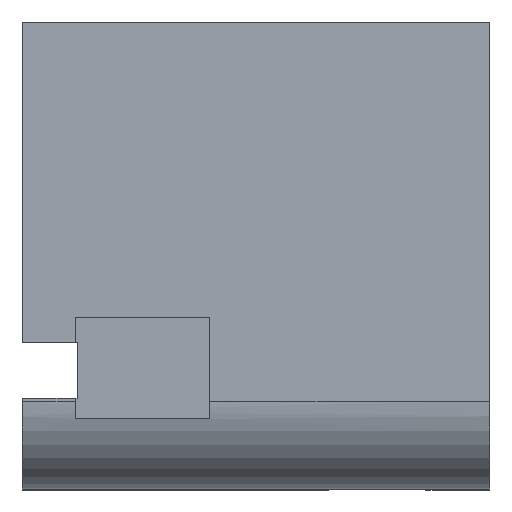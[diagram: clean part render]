
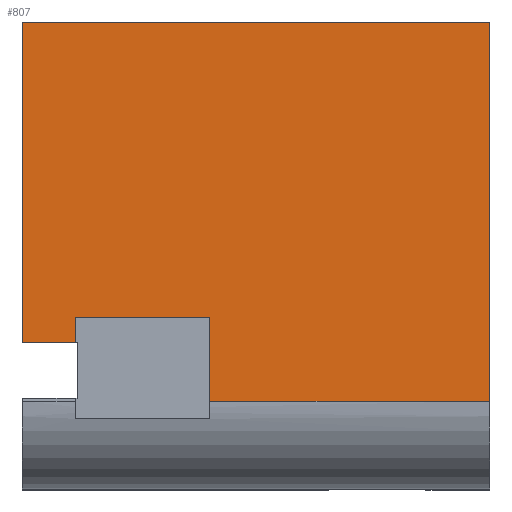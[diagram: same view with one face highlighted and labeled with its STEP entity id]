
A CAD part, top view. The second image highlights one B-rep face of the part: STEP entity #807.
In plain terms, the highlighted planar face has unit normal (0, 0, 1).
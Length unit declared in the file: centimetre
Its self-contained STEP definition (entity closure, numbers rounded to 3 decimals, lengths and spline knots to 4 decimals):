
#10 = ORIENTED_EDGE ( 'NONE', *, *, #273, .F. ) ;
#31 = ORIENTED_EDGE ( 'NONE', *, *, #659, .T. ) ;
#34 = LINE ( 'NONE', #989, #200 ) ;
#40 = CARTESIAN_POINT ( 'NONE',  ( 113.2677, 150.5443, 1000. ) ) ;
#47 = CARTESIAN_POINT ( 'NONE',  ( 1000., 188.5525, 1000. ) ) ;
#53 = LINE ( 'NONE', #706, #54 ) ;
#54 = VECTOR ( 'NONE', #204, 100. ) ;
#55 = VECTOR ( 'NONE', #419, 100. ) ;
#56 = EDGE_CURVE ( 'NONE', #962, #89, #387, .T. ) ;
#59 = DIRECTION ( 'NONE',  ( 0., 0., 1. ) ) ;
#64 = CARTESIAN_POINT ( 'NONE',  ( 0., 315.0358, 1000. ) ) ;
#89 = VERTEX_POINT ( 'NONE', #870 ) ;
#100 = DIRECTION ( 'NONE',  ( 1., 0., 0. ) ) ;
#191 = ORIENTED_EDGE ( 'NONE', *, *, #254, .T. ) ;
#193 = CARTESIAN_POINT ( 'NONE',  ( 113.2677, 315.0358, 1000. ) ) ;
#200 = VECTOR ( 'NONE', #285, 100. ) ;
#204 = DIRECTION ( 'NONE',  ( 0., 1., 0. ) ) ;
#207 = FACE_OUTER_BOUND ( 'NONE', #769, .T. ) ;
#216 = AXIS2_PLACEMENT_3D ( 'NONE', #463, #59, #370 ) ;
#251 = VERTEX_POINT ( 'NONE', #790 ) ;
#253 = VERTEX_POINT ( 'NONE', #64 ) ;
#254 = EDGE_CURVE ( 'NONE', #331, #251, #53, .T. ) ;
#273 = EDGE_CURVE ( 'NONE', #702, #962, #546, .T. ) ;
#285 = DIRECTION ( 'NONE',  ( -1., 0., 0. ) ) ;
#310 = CARTESIAN_POINT ( 'NONE',  ( 400.7513, 367.5573, 1000. ) ) ;
#331 = VERTEX_POINT ( 'NONE', #851 ) ;
#341 = ORIENTED_EDGE ( 'NONE', *, *, #56, .F. ) ;
#370 = DIRECTION ( 'NONE',  ( 1., 0., 0. ) ) ;
#374 = LINE ( 'NONE', #1008, #898 ) ;
#378 = EDGE_CURVE ( 'NONE', #253, #729, #812, .T. ) ;
#379 = VECTOR ( 'NONE', #988, 100. ) ;
#387 = LINE ( 'NONE', #710, #749 ) ;
#404 = ORIENTED_EDGE ( 'NONE', *, *, #378, .T. ) ;
#419 = DIRECTION ( 'NONE',  ( 1., 0., 0. ) ) ;
#448 = PLANE ( 'NONE',  #216 ) ;
#462 = DIRECTION ( 'NONE',  ( -1., 0., 0. ) ) ;
#463 = CARTESIAN_POINT ( 'NONE',  ( 0., 0., 1000. ) ) ;
#515 = VERTEX_POINT ( 'NONE', #800 ) ;
#542 = DIRECTION ( 'NONE',  ( 0., -1., 0. ) ) ;
#546 = LINE ( 'NONE', #621, #727 ) ;
#586 = EDGE_CURVE ( 'NONE', #251, #515, #34, .T. ) ;
#589 = CARTESIAN_POINT ( 'NONE',  ( 400.7513, 188.5525, 1000. ) ) ;
#621 = CARTESIAN_POINT ( 'NONE',  ( 400.7513, 150.5443, 1000. ) ) ;
#659 = EDGE_CURVE ( 'NONE', #702, #331, #896, .T. ) ;
#679 = ORIENTED_EDGE ( 'NONE', *, *, #770, .F. ) ;
#702 = VERTEX_POINT ( 'NONE', #589 ) ;
#706 = CARTESIAN_POINT ( 'NONE',  ( 1000., 1000., 1000. ) ) ;
#710 = CARTESIAN_POINT ( 'NONE',  ( 113.2677, 367.5573, 1000. ) ) ;
#715 = ORIENTED_EDGE ( 'NONE', *, *, #586, .T. ) ;
#727 = VECTOR ( 'NONE', #794, 100. ) ;
#729 = VERTEX_POINT ( 'NONE', #193 ) ;
#749 = VECTOR ( 'NONE', #462, 100. ) ;
#769 = EDGE_LOOP ( 'NONE', ( #679, #341, #10, #31, #191, #715, #829, #404 ) ) ;
#770 = EDGE_CURVE ( 'NONE', #89, #729, #908, .T. ) ;
#790 = CARTESIAN_POINT ( 'NONE',  ( 1000., 1000., 1000. ) ) ;
#794 = DIRECTION ( 'NONE',  ( 0., 1., 0. ) ) ;
#800 = CARTESIAN_POINT ( 'NONE',  ( 0., 1000., 1000. ) ) ;
#807 = ADVANCED_FACE ( 'NONE', ( #207 ), #448, .T. ) ;
#812 = LINE ( 'NONE', #953, #830 ) ;
#829 = ORIENTED_EDGE ( 'NONE', *, *, #841, .T. ) ;
#830 = VECTOR ( 'NONE', #100, 100. ) ;
#841 = EDGE_CURVE ( 'NONE', #515, #253, #374, .T. ) ;
#851 = CARTESIAN_POINT ( 'NONE',  ( 1000., 188.5525, 1000. ) ) ;
#870 = CARTESIAN_POINT ( 'NONE',  ( 113.2677, 367.5573, 1000. ) ) ;
#896 = LINE ( 'NONE', #47, #55 ) ;
#898 = VECTOR ( 'NONE', #542, 100. ) ;
#908 = LINE ( 'NONE', #40, #379 ) ;
#953 = CARTESIAN_POINT ( 'NONE',  ( 0., 315.0358, 1000. ) ) ;
#962 = VERTEX_POINT ( 'NONE', #310 ) ;
#988 = DIRECTION ( 'NONE',  ( 0., -1., 0. ) ) ;
#989 = CARTESIAN_POINT ( 'NONE',  ( 0., 1000., 1000. ) ) ;
#1008 = CARTESIAN_POINT ( 'NONE',  ( 0., 1000., 1000. ) ) ;
